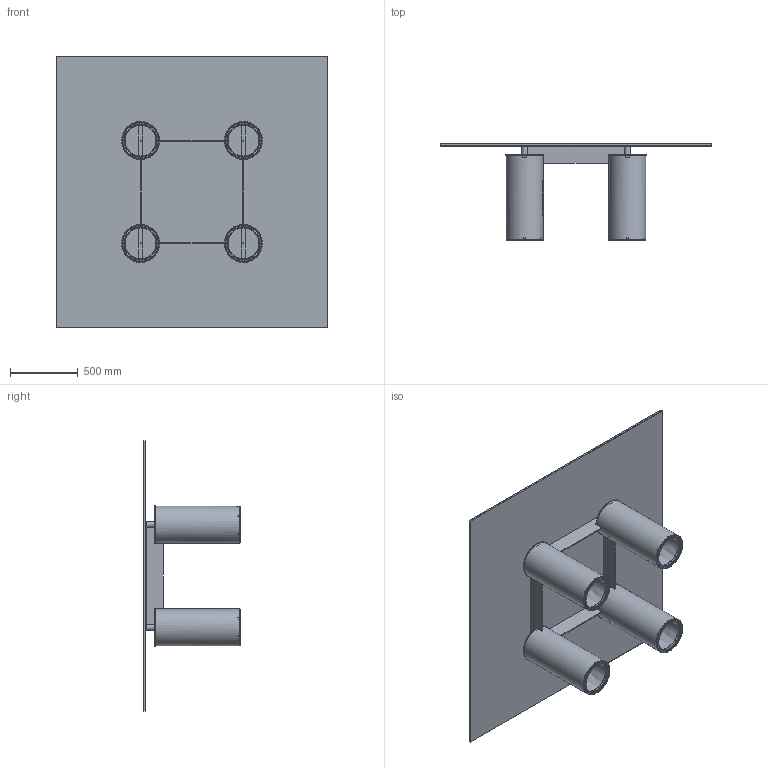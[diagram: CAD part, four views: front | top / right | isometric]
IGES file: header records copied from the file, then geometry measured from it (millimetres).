
Start section: SolidWorks IGES file using NURBS representation for surfaces
Global section: file name: \\fs\Gruppi\Tecnico\UFFICIO TECNICO\PROGETTI in SVILUPPO\2021\SERENISSIMO\3D\SERENISSIMO - 200X200.IGS; native system: SolidWorks 2019; preprocessor: SolidWorks 2019; author: prell; date: 210715.113606; units: millimetre
Bounding box: 2000 x 714 x 2000 mm (x, y, z)
Surface area: 14021611.1 mm2 (no closed solid volume)
Topology: 0 solids, 0 shells, 1959 faces, 10817 edges, 10732 vertices
Faces by surface type: bspline 1959
